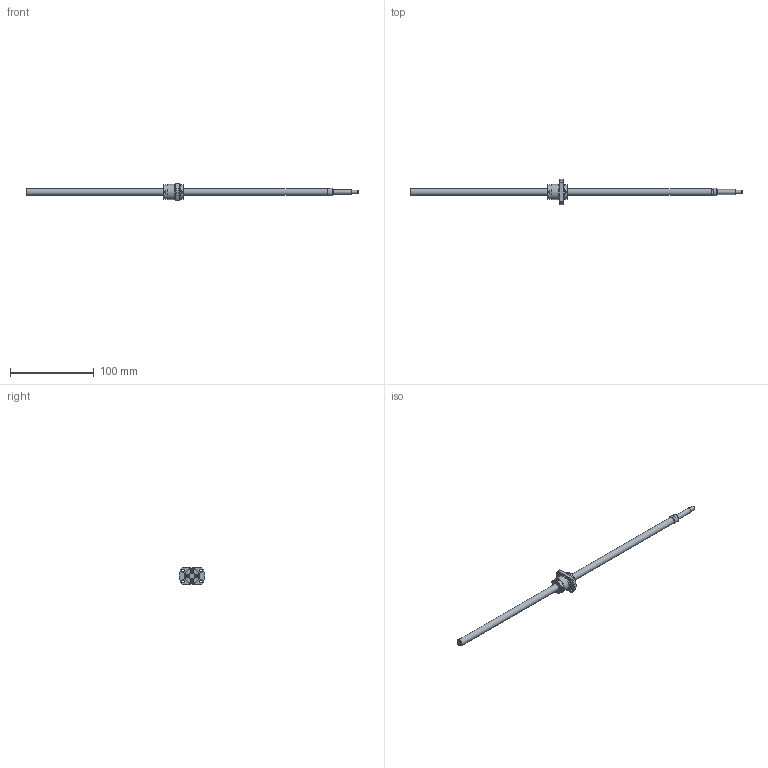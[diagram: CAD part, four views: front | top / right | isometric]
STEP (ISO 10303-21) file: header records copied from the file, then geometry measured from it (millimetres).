
FILE_DESCRIPTION(/* description */ ('STEP AP214'),/* implementation_level */ '2;1');
FILE_NAME(/* name */ 'SRT0820-356R397C7A0X(165Processing)',/* time_stamp */ '2026-08-04T20:07:35+02:00',/* author */ ('License CC BY-ND 4.0'),/* organization */ ('CADENAS'),/* preprocessor_version */ 'ST-DEVELOPER v20',/* originating_system */ 'PARTsolutions',/* authorisation */ ' ');
FILE_SCHEMA (('AUTOMOTIVE_DESIGN {1 0 10303 214 3 1 1}'));
Length unit declared in the file: millimetre
Products named in the file (3): SRT0820-356R397C7A0X(165Processing); SRT0820-356R430ACt7Processing54Shaft; SRT0820Nut
Assembly tree (2 placements, depth 2):
  SRT0820-356R397C7A0X(165Processing)
    SRT0820-356R430ACt7Processing54Shaft
    SRT0820Nut
Bounding box: 397 x 30.91 x 20 mm (x, y, z)
Volume: 24907.9 mm3; surface area: 13267.4 mm2
Topology: 2 solids, 2 shells, 150 faces, 359 edges, 236 vertices
Faces by surface type: plane 107, cylinder 32, cone 10, torus 1
Full cylindrical faces by diameter (mm): 3 x8, 3.4 x4, 4.5 x1, 6 x1, 8 x2, 9.5 x1, 17.5 x2, 17.7 x1, 18 x2
Entity records: 4267 total; most frequent: CARTESIAN_POINT 737, DIRECTION 718, ORIENTED_EDGE 654, EDGE_CURVE 327, AXIS2_PLACEMENT_3D 246, VERTEX_POINT 233, LINE 226, VECTOR 226
